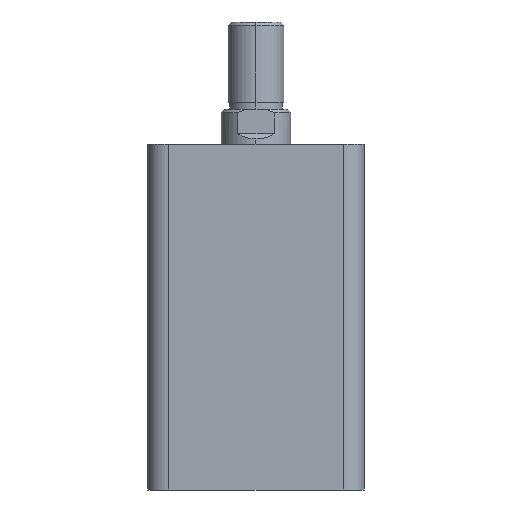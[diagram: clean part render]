
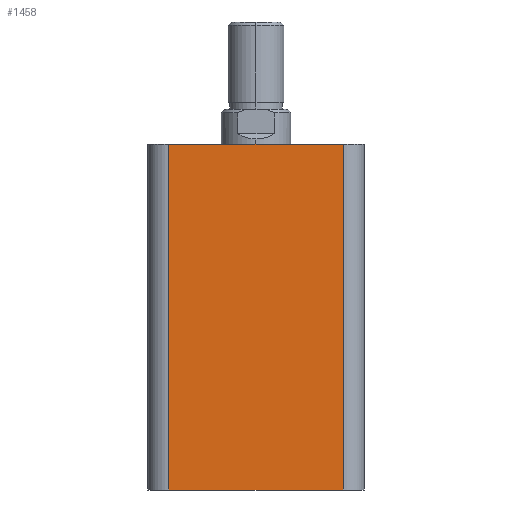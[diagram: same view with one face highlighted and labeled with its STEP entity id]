
A CAD part, left-side view. The second image highlights one B-rep face of the part: STEP entity #1458.
In plain terms, the highlighted planar face has unit normal (-1, 0, 0).
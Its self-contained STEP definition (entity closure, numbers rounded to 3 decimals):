
#215 = EDGE_CURVE ( 'NONE', #2740, #2888, #3132, .T. ) ;
#255 = EDGE_CURVE ( 'NONE', #2863, #2888, #1529, .T. ) ;
#256 = EDGE_CURVE ( 'NONE', #2740, #2870, #1526, .T. ) ;
#276 = EDGE_CURVE ( 'NONE', #2870, #2863, #1509, .T. ) ;
#1189 = DIRECTION ( 'NONE',  ( 0., -1., 0. ) ) ;
#1193 = CARTESIAN_POINT ( 'NONE',  ( -31., 31., 0. ) ) ;
#1458 = ADVANCED_FACE ( 'NONE', ( #4037 ), #4959, .F. ) ;
#1508 = VECTOR ( 'NONE', #1189, 1000. ) ;
#1509 = LINE ( 'NONE', #1193, #1508 ) ;
#1525 = VECTOR ( 'NONE', #4071, 1000. ) ;
#1526 = LINE ( 'NONE', #4095, #1525 ) ;
#1528 = VECTOR ( 'NONE', #4074, 1000. ) ;
#1529 = LINE ( 'NONE', #4080, #1528 ) ;
#1712 = CARTESIAN_POINT ( 'NONE',  ( -31., 25., 99. ) ) ;
#1844 = CARTESIAN_POINT ( 'NONE',  ( -31., -25., 0. ) ) ;
#1851 = CARTESIAN_POINT ( 'NONE',  ( -31., 25., 0. ) ) ;
#1869 = CARTESIAN_POINT ( 'NONE',  ( -31., -25., 99. ) ) ;
#2740 = VERTEX_POINT ( 'NONE', #1712 ) ;
#2863 = VERTEX_POINT ( 'NONE', #1844 ) ;
#2870 = VERTEX_POINT ( 'NONE', #1851 ) ;
#2888 = VERTEX_POINT ( 'NONE', #1869 ) ;
#2935 = AXIS2_PLACEMENT_3D ( 'NONE', #4957, #4962, #4963 ) ;
#3130 = VECTOR ( 'NONE', #4072, 1000. ) ;
#3132 = LINE ( 'NONE', #4089, #3130 ) ;
#3494 = ORIENTED_EDGE ( 'NONE', *, *, #276, .T. ) ;
#3495 = ORIENTED_EDGE ( 'NONE', *, *, #255, .T. ) ;
#3496 = ORIENTED_EDGE ( 'NONE', *, *, #215, .F. ) ;
#3497 = ORIENTED_EDGE ( 'NONE', *, *, #256, .T. ) ;
#4037 = FACE_OUTER_BOUND ( 'NONE', #4516, .T. ) ;
#4071 = DIRECTION ( 'NONE',  ( 0., 0., -1. ) ) ;
#4072 = DIRECTION ( 'NONE',  ( 0., -1., 0. ) ) ;
#4074 = DIRECTION ( 'NONE',  ( 0., 0., 1. ) ) ;
#4080 = CARTESIAN_POINT ( 'NONE',  ( -31., -25., 99. ) ) ;
#4089 = CARTESIAN_POINT ( 'NONE',  ( -31., 31., 99. ) ) ;
#4095 = CARTESIAN_POINT ( 'NONE',  ( -31., 25., 99. ) ) ;
#4516 = EDGE_LOOP ( 'NONE', ( #3494, #3495, #3496, #3497 ) ) ;
#4957 = CARTESIAN_POINT ( 'NONE',  ( -31., 31., 99. ) ) ;
#4959 = PLANE ( 'NONE',  #2935 ) ;
#4962 = DIRECTION ( 'NONE',  ( 1., 0., 0. ) ) ;
#4963 = DIRECTION ( 'NONE',  ( 0., 0., -1. ) ) ;
